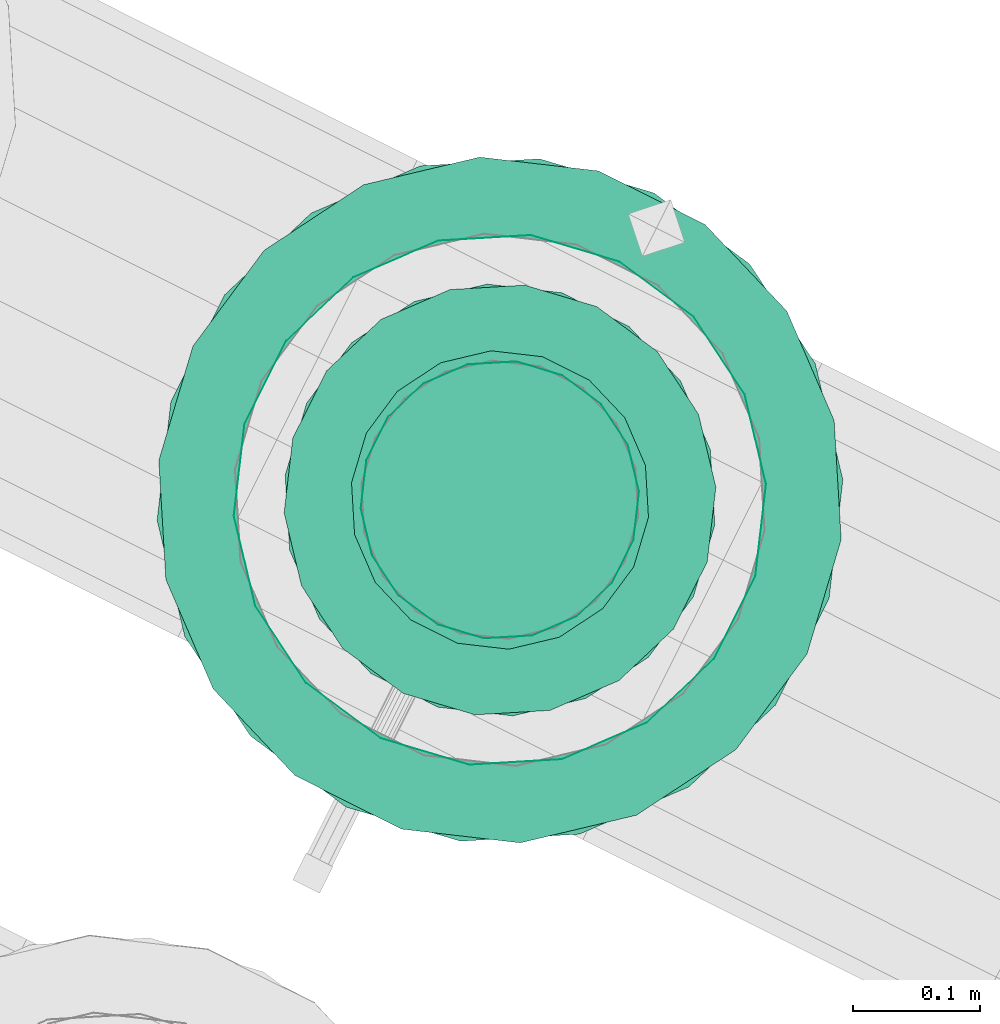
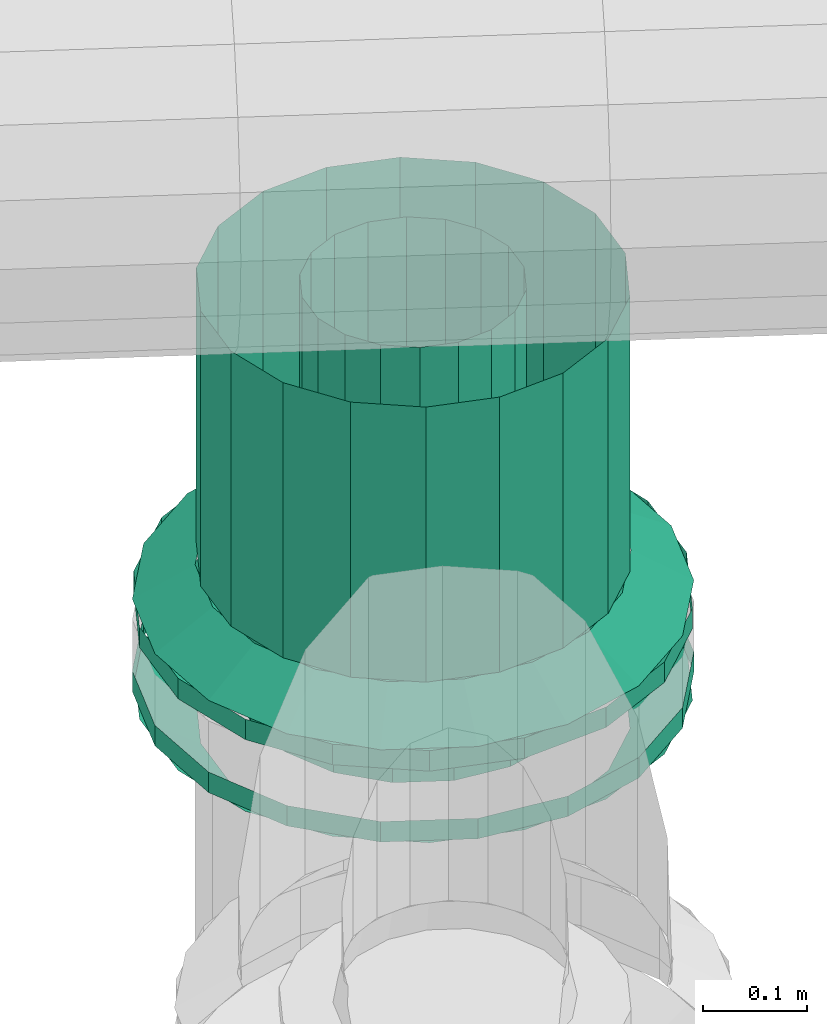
# One storey, part 126 of 152: 2 flow fittings, 1 flow segment.
"""IFC2X3 building model written with IfcOpenShell, lengths in metres."""

import ifcopenshell
import ifcopenshell.guid

model = None  # the IFC model being written
_history = None  # IfcOwnerHistory: only IFC2X3 demands one
_inside = {}  # id of a spatial element -> (the spatial element, [elements in it])
_under = {}  # id of a project, library or spatial element -> (it, [spatial elements below it])
_declared = {}  # id of a project -> (the project, [libraries it declares])
_typed = {}  # id of a type object -> (the type object, [elements of that type])
_made_of = {}  # id of a material, layer set ... -> (it, [elements and type objects made of it])


def new_model(schema):
    """Start an empty IFC model of exactly this schema.

    Asked for "IFC4X3", IfcOpenShell would pick the latest addendum, in which some entities
    have other attributes; the version numbers below select the first issue.
    IFC2X3 requires an IfcOwnerHistory on every rooted entity: one is made here for all.
    """
    global model, _history
    if schema == "IFC4X3":
        model = ifcopenshell.file(schema_version=(4, 3, 0, 0))
    else:
        model = ifcopenshell.file(schema=schema)
    _inside.clear()
    _under.clear()
    _declared.clear()
    _typed.clear()
    _made_of.clear()
    _history = None
    if model.schema == "IFC2X3":
        org = make("IfcOrganization", Name="unknown")
        user = make(
            "IfcPersonAndOrganization",
            ThePerson=make("IfcPerson", FamilyName="unknown"),
            TheOrganization=org,
        )
        app = make(
            "IfcApplication",
            ApplicationDeveloper=org,
            Version="unknown",
            ApplicationFullName="unknown",
            ApplicationIdentifier="unknown",
        )
        _history = make(
            "IfcOwnerHistory",
            OwningUser=user,
            OwningApplication=app,
            ChangeAction="ADDED",
            CreationDate=0,
        )
    return model


def make(cls, **values):
    """One entity of the class cls with the attributes given. An attribute that is None is left unset."""
    return model.create_entity(
        cls, **{name: value for name, value in values.items() if value is not None}
    )


def rooted(cls, **values):
    """An entity with a GlobalId (a new one), such as an element, a storey or a relation."""
    return make(cls, GlobalId=ifcopenshell.guid.new(), OwnerHistory=_history, **values)


def si_unit(unit_type, name, prefix=None):
    """IfcSIUnit, for example si_unit("LENGTHUNIT", "METRE", prefix="MILLI")."""
    return make("IfcSIUnit", UnitType=unit_type, Prefix=prefix, Name=name)


def derived_unit(unit_type, elements):
    """IfcDerivedUnit: a product of units, each with its exponent."""
    return make(
        "IfcDerivedUnit",
        Elements=[
            make("IfcDerivedUnitElement", Unit=unit, Exponent=power)
            for unit, power in elements
        ],
        UnitType=unit_type,
    )


def assignment(units):
    """IfcUnitAssignment: the units of a project."""
    return None if units is None else make("IfcUnitAssignment", Units=units)


def point(xyz):
    """IfcCartesianPoint."""
    return None if xyz is None else make("IfcCartesianPoint", Coordinates=xyz)


def direction(xyz):
    """IfcDirection."""
    return None if xyz is None else make("IfcDirection", DirectionRatios=xyz)


def frame(location, z_axis=None, x_axis=None):
    """IfcAxis2Placement3D, a coordinate frame: its origin and axes. An axis left out is left unset."""
    return make(
        "IfcAxis2Placement3D",
        Location=point(location),
        Axis=direction(z_axis),
        RefDirection=direction(x_axis),
    )


def origin():
    """The frame at (0, 0, 0) with its axes left unset."""
    return frame((0.0, 0.0, 0.0))


def place(relative_to, where):
    """IfcLocalPlacement: puts the frame where relative to a parent placement (None: the world)."""
    return make(
        "IfcLocalPlacement", PlacementRelTo=relative_to, RelativePlacement=where
    )


def context(
    kind, dimensions, precision=None, world=None, true_north=None, identifier=None
):
    """IfcGeometricRepresentationContext, for example the 3D "Model" context."""
    return make(
        "IfcGeometricRepresentationContext",
        ContextIdentifier=identifier,
        ContextType=kind,
        CoordinateSpaceDimension=dimensions,
        Precision=precision,
        WorldCoordinateSystem=world,
        TrueNorth=true_north,
    )


def subcontext(parent, identifier, kind, view, scale=None):
    """IfcGeometricRepresentationSubContext, for example "Body" below "Model"."""
    return make(
        "IfcGeometricRepresentationSubContext",
        ContextIdentifier=identifier,
        ContextType=kind,
        ParentContext=parent,
        TargetScale=scale,
        TargetView=view,
    )


def project(units=None, contexts=None):
    """IfcProject with its units and contexts."""
    return rooted(
        "IfcProject",
        Name="project",
        RepresentationContexts=contexts,
        UnitsInContext=assignment(units),
    )


def spatial(cls, under=None, at=None, **own):
    """A site, building, storey or space (cls), placed at a placement, below another one or the project."""
    s = rooted(cls, ObjectPlacement=at, **own)
    if under is not None:
        _under.setdefault(under.id(), (under, []))[1].append(s)
    return s


def faces_of(points, faces, orient=None, outer=None):
    """IfcFace entities. A face is a list of loops; a loop is a list of indices into points, from 0.

    orient and outer hold one flag for each loop. By default every Orientation is true, the
    first loop of a face is its IfcFaceOuterBound and the others are IfcFaceBound.
    """
    made = []
    for i, loops in enumerate(faces):
        bounds = []
        for j, loop in enumerate(loops):
            is_outer = j == 0 if outer is None else outer[i][j]
            bounds.append(
                make(
                    "IfcFaceOuterBound" if is_outer else "IfcFaceBound",
                    Bound=make("IfcPolyLoop", Polygon=[points[k] for k in loop]),
                    Orientation=True if orient is None else orient[i][j],
                )
            )
        made.append(make("IfcFace", Bounds=bounds))
    return made


def face_set(faces, orient=None, outer=None):
    """The faces of one IfcConnectedFaceSet. surface_model builds it on its shared points."""
    return ("IfcConnectedFaceSet", faces, orient, outer)


def surface_model(cls, points, shells):
    """IfcFaceBasedSurfaceModel or IfcShellBasedSurfaceModel (cls): surfaces that need not close."""
    shared = [point(p) for p in points]
    made = [make(c, CfsFaces=faces_of(shared, fs, o, b)) for c, fs, o, b in shells]
    if cls == "IfcFaceBasedSurfaceModel":
        return make(cls, FbsmFaces=made)
    return make(cls, SbsmBoundary=made)


def shape(context_of_items, identifier, shape_type, items):
    """IfcShapeRepresentation: the items that make up one representation, for example the "Body"."""
    return make(
        "IfcShapeRepresentation",
        ContextOfItems=context_of_items,
        RepresentationIdentifier=identifier,
        RepresentationType=shape_type,
        Items=items,
    )


def source(mapping_origin, context_of_items, identifier, shape_type, items):
    """IfcRepresentationMap: a shape defined once, which mapped items show again and again."""
    return make(
        "IfcRepresentationMap",
        MappingOrigin=mapping_origin,
        MappedRepresentation=shape(context_of_items, identifier, shape_type, items),
    )


def transform(
    local_origin,
    x_axis=None,
    y_axis=None,
    z_axis=None,
    scale=None,
    scale2=None,
    scale3=None,
    uniform=True,
):
    """IfcCartesianTransformationOperator3D, or its non-uniform kind. x_axis, y_axis, z_axis: its Axis1, 2, 3."""
    if uniform:
        return make(
            "IfcCartesianTransformationOperator3D",
            Axis1=direction(x_axis),
            Axis2=direction(y_axis),
            LocalOrigin=point(local_origin),
            Scale=scale,
            Axis3=direction(z_axis),
        )
    return make(
        "IfcCartesianTransformationOperator3DnonUniform",
        Axis1=direction(x_axis),
        Axis2=direction(y_axis),
        LocalOrigin=point(local_origin),
        Scale=scale,
        Axis3=direction(z_axis),
        Scale2=scale2,
        Scale3=scale3,
    )


def mapped(mapping_source, mapping_target):
    """IfcMappedItem: shows the shape of a source again, moved by a transform."""
    return make(
        "IfcMappedItem", MappingSource=mapping_source, MappingTarget=mapping_target
    )


def material(Name=None, Category=None):
    """IfcMaterial."""
    return make("IfcMaterial", Name=Name, Category=Category)


def made_of(thing, what):
    """Note that an element or type object is made of a material, layer set ...; save() writes the relation."""
    if what is not None:
        _made_of.setdefault(what.id(), (what, []))[1].append(thing)
    return thing


def type_object(cls, material=None, **own):
    """A type object (cls), such as IfcWallType, which elements share."""
    return made_of(rooted(cls, **own), material)


def type_shapes(of_type, sources):
    """Give a type object the sources (RepresentationMaps) that its elements show as mapped items."""
    of_type.RepresentationMaps = sources


def element(
    cls,
    number,
    at=None,
    inside=None,
    cuts=None,
    type_object=None,
    material=None,
    context=None,
    identifier="Body",
    shape_type=None,
    held_by="IfcProductDefinitionShape",
    body=None,
    shapes=None,
    **own,
):
    """One element of the class cls, such as IfcWall. Its Tag is "e" and its number.

    at: its placement. inside: the storey or other place that contains it. cuts: it is an
    opening in that element (IfcRelVoidsElement). A single representation is given by context,
    identifier, shape_type and body (its items); several are given by shapes. held_by: the class
    of the entity that holds the representations. save() writes the other relations.
    """
    e = rooted(cls, Tag="e%d" % number, ObjectPlacement=at, **own)
    if body is not None:
        shapes = [shape(context, identifier, shape_type, body)]
    if shapes is not None:
        e.Representation = make(held_by, Representations=shapes)
    if inside is not None:
        _inside.setdefault(inside.id(), (inside, []))[1].append(e)
    if cuts is not None:
        rooted(
            "IfcRelVoidsElement", RelatingBuildingElement=cuts, RelatedOpeningElement=e
        )
    if type_object is not None:
        _typed.setdefault(type_object.id(), (type_object, []))[1].append(e)
    return made_of(e, material)


def aggregate(whole, parts):
    """IfcRelAggregates: a whole, such as a stair, and the parts it consists of."""
    return rooted("IfcRelAggregates", RelatingObject=whole, RelatedObjects=parts)


def save(model, path):
    """Write the relations noted so far, then the file.

    IfcRelAggregates (storeys below a building ...), IfcRelContainedInSpatialStructure (elements
    in a storey), IfcRelDefinesByType, IfcRelAssociatesMaterial and IfcRelDeclares: one each for
    every whole, place, type object, material and project.
    """
    for whole, parts in _under.values():
        aggregate(whole, parts)
    for where, things in _inside.values():
        rooted(
            "IfcRelContainedInSpatialStructure",
            RelatedElements=things,
            RelatingStructure=where,
        )
    for kind, things in _typed.values():
        rooted("IfcRelDefinesByType", RelatedObjects=things, RelatingType=kind)
    for what, things in _made_of.values():
        rooted("IfcRelAssociatesMaterial", RelatedObjects=things, RelatingMaterial=what)
    for by, libraries in _declared.values():
        rooted("IfcRelDeclares", RelatingContext=by, RelatedDefinitions=libraries)
    model.write(path)


model = new_model("IFC2X3")

# Units and contexts
model_context = context("Model", 3, precision=5.2338327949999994e-05, world=origin(), true_north=direction((0.0, 1.0)))
body_context = subcontext(model_context, "Body", "Model", "MODEL_VIEW")
ifc_project = project(units=[si_unit("LENGTHUNIT", "METRE"), si_unit("AREAUNIT", "SQUARE_METRE"), si_unit("VOLUMEUNIT", "CUBIC_METRE"), si_unit("MASSUNIT", "GRAM", prefix="KILO"), si_unit("PLANEANGLEUNIT", "RADIAN"), derived_unit("THERMALTRANSMITTANCEUNIT", [(si_unit("MASSUNIT", "GRAM", prefix="KILO"), 1), (si_unit("THERMODYNAMICTEMPERATUREUNIT", "KELVIN"), -1), (si_unit("TIMEUNIT", "SECOND"), -3)])], contexts=[model_context])

# Site, building, storey
site_placement = place(None, frame((0.0, 0.0, 0.0), z_axis=(0.0, 0.0, 1.0), x_axis=(0.8939966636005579, -0.4480736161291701, 0.0)))
site = spatial("IfcSite", under=ifc_project, at=site_placement, Name="Default", CompositionType="ELEMENT")
building_placement = place(site_placement, origin())
building = spatial("IfcBuilding", under=site, at=building_placement, CompositionType="ELEMENT")
storey_placement = place(building_placement, frame((0.0, 0.0, 2.7499999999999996)))
storey = spatial("IfcBuildingStorey", under=building, at=storey_placement, Name="1. Obergeschoss", CompositionType="ELEMENT", Elevation=2.7499999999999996)

# Flow segment
ifc_material = material(Name="IfcSurfaceStyle #1741")
distribution_element_type_1 = type_object("IfcDistributionElementType", Name="Stahlrohr nach DIN 2448 247294:Stahlrohr nach DIN 2448 247294", material=ifc_material)
shared_shape_1 = source(origin(), body_context, "Body", "SurfaceModel", [
    surface_model("IfcFaceBasedSurfaceModel", [(6.5878144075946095, 7.902658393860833, 5.375028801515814), (6.550346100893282, 7.909265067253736, 5.375028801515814), (6.550346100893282, 7.909265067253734, 5.052622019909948), (6.5878144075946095, 7.902658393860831, 5.052622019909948), (6.517397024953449, 7.928288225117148, 5.375028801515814), (6.517397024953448, 7.928288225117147, 5.052622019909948), (6.492941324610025, 7.957433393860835, 5.375028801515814), (6.492941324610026, 7.957433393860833, 5.052622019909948), (6.479928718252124, 7.9931852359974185, 5.375028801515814), (6.479928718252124, 7.9931852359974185, 5.052622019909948), (6.479928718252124, 8.031231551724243, 5.375028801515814), (6.479928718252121, 8.031231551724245, 5.052622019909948), (6.492941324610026, 8.066983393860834, 5.375028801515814), (6.492941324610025, 8.066983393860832, 5.052622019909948), (6.517397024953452, 8.096128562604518, 5.375028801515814), (6.517397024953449, 8.096128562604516, 5.052622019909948), (6.550346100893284, 8.115151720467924, 5.375028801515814), (6.550346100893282, 8.115151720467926, 5.052622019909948), (6.587814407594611, 8.121758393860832, 5.375028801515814), (6.5878144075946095, 8.121758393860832, 5.052622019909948), (6.625282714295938, 8.115151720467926, 5.375028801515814), (6.625282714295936, 8.115151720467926, 5.052622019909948), (6.658231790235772, 8.096128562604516, 5.375028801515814), (6.658231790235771, 8.096128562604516, 5.052622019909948), (6.6826874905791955, 8.06698339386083, 5.375028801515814), (6.682687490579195, 8.06698339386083, 5.052622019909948), (6.695700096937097, 8.031231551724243, 5.375028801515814), (6.695700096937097, 8.031231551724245, 5.052622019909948), (6.695700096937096, 7.9931852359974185, 5.375028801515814), (6.695700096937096, 7.9931852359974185, 5.052622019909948), (6.682687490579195, 7.957433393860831, 5.375028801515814), (6.682687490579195, 7.957433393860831, 5.052622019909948), (6.658231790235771, 7.928288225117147, 5.375028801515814), (6.658231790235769, 7.928288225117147, 5.052622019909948), (6.6252827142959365, 7.909265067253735, 5.375028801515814), (6.625282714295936, 7.909265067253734, 5.052622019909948), (6.5878144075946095, 7.802658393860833, 5.375028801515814), (6.51614408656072, 7.815295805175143, 5.375028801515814), (6.516144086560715, 7.815295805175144, 5.052622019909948), (6.5878144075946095, 7.802658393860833, 5.052622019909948), (6.453118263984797, 7.85168378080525, 5.375028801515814), (6.453118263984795, 7.85168378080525, 5.052622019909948), (6.40633878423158, 7.907433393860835, 5.375028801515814), (6.40633878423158, 7.90743339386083, 5.052622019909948), (6.381447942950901, 7.975820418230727, 5.375028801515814), (6.381447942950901, 7.975820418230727, 5.052622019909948), (6.381447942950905, 8.048596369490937, 5.375028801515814), (6.381447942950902, 8.048596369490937, 5.052622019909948), (6.406338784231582, 8.116983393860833, 5.375028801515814), (6.40633878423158, 8.11698339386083, 5.052622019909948), (6.4531182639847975, 8.172733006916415, 5.375028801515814), (6.453118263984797, 8.172733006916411, 5.052622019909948), (6.516144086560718, 8.20912098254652, 5.375028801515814), (6.516144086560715, 8.20912098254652, 5.052622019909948), (6.587814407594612, 8.221758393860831, 5.375028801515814), (6.587814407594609, 8.22175839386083, 5.052622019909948), (6.659484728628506, 8.209120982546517, 5.375028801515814), (6.659484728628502, 8.20912098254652, 5.052622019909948), (6.722510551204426, 8.172733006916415, 5.375028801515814), (6.722510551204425, 8.172733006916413, 5.052622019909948), (6.769290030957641, 8.11698339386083, 5.375028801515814), (6.769290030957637, 8.11698339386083, 5.052622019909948), (6.79418087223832, 8.048596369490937, 5.375028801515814), (6.794180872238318, 8.048596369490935, 5.052622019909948), (6.794180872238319, 7.975820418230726, 5.375028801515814), (6.794180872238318, 7.975820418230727, 5.052622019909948), (6.769290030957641, 7.907433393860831, 5.375028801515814), (6.769290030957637, 7.90743339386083, 5.052622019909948), (6.722510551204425, 7.851683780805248, 5.375028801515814), (6.722510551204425, 7.851683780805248, 5.052622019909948), (6.659484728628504, 7.815295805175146, 5.375028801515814), (6.659484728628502, 7.815295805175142, 5.052622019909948)], [face_set([[[0, 1, 2, 3]], [[1, 4, 5, 2]], [[4, 6, 7, 5]], [[6, 8, 9, 7]], [[8, 10, 11, 9]], [[10, 12, 13, 11]], [[12, 14, 15, 13]], [[14, 16, 17, 15]], [[16, 18, 19, 17]], [[18, 20, 21, 19]], [[20, 22, 23, 21]], [[22, 24, 25, 23]], [[24, 26, 27, 25]], [[26, 28, 29, 27]], [[28, 30, 31, 29]], [[30, 32, 33, 31]], [[32, 34, 35, 33]], [[34, 0, 3, 35]], [[36, 37, 38, 39]], [[37, 40, 41, 38]], [[40, 42, 43, 41]], [[42, 44, 45, 43]], [[44, 46, 47, 45]], [[46, 48, 49, 47]], [[48, 50, 51, 49]], [[50, 52, 53, 51]], [[52, 54, 55, 53]], [[54, 56, 57, 55]], [[56, 58, 59, 57]], [[58, 60, 61, 59]], [[60, 62, 63, 61]], [[62, 64, 65, 63]], [[64, 66, 67, 65]], [[66, 68, 69, 67]], [[68, 70, 71, 69]], [[70, 36, 39, 71]]])]),
])
type_shapes(distribution_element_type_1, [shared_shape_1])
flow_segment_placement = place(storey_placement, frame((0.0, 0.0, -2.7499999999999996)))
element("IfcFlowSegment", 1, at=flow_segment_placement, inside=storey, type_object=distribution_element_type_1, material=ifc_material, Name="Stahlrohr nach DIN 2448", ObjectType="Stahlrohr nach DIN 2448", context=body_context, shape_type="MappedRepresentation", body=[
    mapped(shared_shape_1, transform((0.0, 0.0, 0.0), scale=1.0)),
])

# Flow fittings
distribution_element_type_2 = type_object("IfcDistributionElementType", Name="Flansch 247317:Flansch 247317", material=ifc_material)
shared_shape_2 = source(origin(), body_context, "Body", "SurfaceModel", [
    surface_model("IfcFaceBasedSurfaceModel", [(6.47826440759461, 8.012208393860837, 5.052622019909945), (6.484871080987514, 8.049676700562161, 5.052622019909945), (6.477400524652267, 8.0523957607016, 5.0146220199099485), (6.470314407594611, 8.012208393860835, 5.0146220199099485), (6.5038942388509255, 8.082625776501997, 5.052622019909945), (6.497804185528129, 8.087735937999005, 5.0146220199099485), (6.533039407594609, 8.107081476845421, 5.052622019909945), (6.529064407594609, 8.113966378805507, 5.014622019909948), (6.568791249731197, 8.120094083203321, 5.052622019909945), (6.567410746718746, 8.127923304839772, 5.014622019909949), (6.6068375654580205, 8.12009408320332, 5.052622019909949), (6.608218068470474, 8.12792330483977, 5.0146220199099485), (6.64258940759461, 8.10708147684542, 5.052622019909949), (6.646564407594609, 8.113966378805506, 5.014622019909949), (6.671734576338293, 8.082625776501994, 5.052622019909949), (6.677824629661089, 8.087735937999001, 5.014622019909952), (6.6907577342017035, 8.049676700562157, 5.0526220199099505), (6.698228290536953, 8.052395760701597, 5.014622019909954), (6.697364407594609, 8.012208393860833, 5.05262201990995), (6.70531440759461, 8.012208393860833, 5.014622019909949), (6.690757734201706, 7.974740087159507, 5.0526220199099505), (6.698228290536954, 7.9720210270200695, 5.014622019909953), (6.671734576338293, 7.941791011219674, 5.05262201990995), (6.677824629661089, 7.9366808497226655, 5.014622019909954), (6.642589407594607, 7.917335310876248, 5.052622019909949), (6.646564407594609, 7.910450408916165, 5.0146220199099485), (6.60683756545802, 7.904322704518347, 5.052622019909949), (6.608218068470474, 7.896493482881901, 5.014622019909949), (6.568791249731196, 7.904322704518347, 5.052622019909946), (6.567410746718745, 7.896493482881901, 5.014622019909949), (6.533039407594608, 7.91733531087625, 5.052622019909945), (6.529064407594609, 7.910450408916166, 5.0146220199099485), (6.5038942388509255, 7.941791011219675, 5.052622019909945), (6.497804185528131, 7.936680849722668, 5.014622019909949), (6.484871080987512, 7.974740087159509, 5.052622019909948), (6.477400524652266, 7.9720210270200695, 5.0146220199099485), (6.587814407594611, 8.182208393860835, 5.0146220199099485), (6.645957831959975, 8.171956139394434, 5.01462201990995), (6.645957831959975, 8.171956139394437, 4.990622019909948), (6.587814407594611, 8.182208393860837, 4.990622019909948), (6.6970883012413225, 8.14243594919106, 5.01462201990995), (6.6970883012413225, 8.14243594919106, 4.990622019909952), (6.735038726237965, 8.097208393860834, 5.014622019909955), (6.735038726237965, 8.097208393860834, 4.990622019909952), (6.755231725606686, 8.041728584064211, 5.014622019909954), (6.755231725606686, 8.041728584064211, 4.990622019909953), (6.755231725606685, 7.982688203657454, 5.014622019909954), (6.755231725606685, 7.982688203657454, 4.990622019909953), (6.735038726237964, 7.927208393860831, 5.014622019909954), (6.735038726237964, 7.927208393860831, 4.990622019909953), (6.697088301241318, 7.881980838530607, 5.014622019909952), (6.69708830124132, 7.881980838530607, 4.990622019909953), (6.64595783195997, 7.852460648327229, 5.01462201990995), (6.645957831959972, 7.852460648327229, 4.990622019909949), (6.5878144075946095, 7.842208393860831, 5.0146220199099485), (6.5878144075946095, 7.842208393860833, 4.990622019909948), (6.529670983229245, 7.852460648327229, 5.0146220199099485), (6.529670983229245, 7.852460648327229, 4.990622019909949), (6.478540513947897, 7.881980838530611, 5.0146220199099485), (6.478540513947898, 7.881980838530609, 4.9906220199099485), (6.4405900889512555, 7.927208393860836, 5.0146220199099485), (6.4405900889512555, 7.927208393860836, 4.990622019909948), (6.4203970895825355, 7.9826882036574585, 5.014622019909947), (6.420397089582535, 7.982688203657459, 4.990622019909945), (6.420397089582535, 8.041728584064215, 5.014622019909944), (6.420397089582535, 8.041728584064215, 4.990622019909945), (6.4405900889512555, 8.097208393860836, 5.0146220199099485), (6.4405900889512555, 8.097208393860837, 4.990622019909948), (6.478540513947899, 8.142435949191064, 5.0146220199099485), (6.478540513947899, 8.142435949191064, 4.990622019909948), (6.529670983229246, 8.171956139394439, 5.0146220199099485), (6.529670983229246, 8.171956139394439, 4.990622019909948), (6.5878144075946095, 8.012208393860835, 5.014622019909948), (6.3782644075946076, 8.012208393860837, 5.052622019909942), (6.390901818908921, 8.08387871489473, 5.052622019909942), (6.334097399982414, 8.104553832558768, 5.014622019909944), (6.317814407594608, 8.012208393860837, 5.014622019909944), (6.427289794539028, 8.146904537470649, 5.052622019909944), (6.380982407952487, 8.185761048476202, 5.014622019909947), (6.4830394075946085, 8.193684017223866, 5.052622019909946), (6.452814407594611, 8.246035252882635, 5.014622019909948), (6.551426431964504, 8.218574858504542, 5.052622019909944), (6.540929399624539, 8.27810648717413, 5.014622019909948), (6.6242023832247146, 8.21857485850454, 5.05262201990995), (6.634699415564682, 8.278106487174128, 5.01462201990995), (6.6925894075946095, 8.193684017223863, 5.052622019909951), (6.722814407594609, 8.246035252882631, 5.01462201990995), (6.74833902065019, 8.146904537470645, 5.052622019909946), (6.7946464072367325, 8.185761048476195, 5.014622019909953), (6.784726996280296, 8.083878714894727, 5.0526220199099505), (6.841531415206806, 8.10455383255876, 5.014622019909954), (6.797364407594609, 8.012208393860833, 5.0526220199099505), (6.85781440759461, 8.012208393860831, 5.014622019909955), (6.784726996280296, 7.9405380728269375, 5.0526220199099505), (6.841531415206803, 7.9198629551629, 5.014622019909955), (6.748339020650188, 7.877512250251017, 5.052622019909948), (6.794646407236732, 7.838655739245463, 5.014622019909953), (6.692589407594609, 7.830732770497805, 5.052622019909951), (6.722814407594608, 7.778381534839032, 5.014622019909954), (6.624202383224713, 7.805841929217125, 5.0526220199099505), (6.634699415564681, 7.746310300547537, 5.014622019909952), (6.551426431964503, 7.805841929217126, 5.052622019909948), (6.540929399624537, 7.746310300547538, 5.014622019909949), (6.483039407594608, 7.830732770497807, 5.052622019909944), (6.452814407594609, 7.778381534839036, 5.014622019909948), (6.427289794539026, 7.877512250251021, 5.052622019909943), (6.3809824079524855, 7.8386557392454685, 5.014622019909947), (6.3909018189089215, 7.940538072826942, 5.052622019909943), (6.334097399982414, 7.9198629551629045, 5.014622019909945), (6.5878144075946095, 8.282208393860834, 5.0146220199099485), (6.680159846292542, 8.265925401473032, 5.01462201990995), (6.680159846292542, 8.265925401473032, 4.990622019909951), (6.5878144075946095, 8.282208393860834, 4.990622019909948), (6.761367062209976, 8.219040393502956, 5.014622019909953), (6.761367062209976, 8.219040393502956, 4.990622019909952), (6.821641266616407, 8.14720839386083, 5.014622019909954), (6.821641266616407, 8.147208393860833, 4.990622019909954), (6.853712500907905, 8.059093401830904, 5.014622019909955), (6.853712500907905, 8.059093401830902, 4.990622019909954), (6.853712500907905, 7.96532338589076, 5.014622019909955), (6.853712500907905, 7.96532338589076, 4.990622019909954), (6.821641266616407, 7.8772083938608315, 5.014622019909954), (6.821641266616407, 7.8772083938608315, 4.990622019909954), (6.761367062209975, 7.805376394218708, 5.014622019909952), (6.761367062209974, 7.805376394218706, 4.990622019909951), (6.680159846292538, 7.7584913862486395, 5.014622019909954), (6.680159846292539, 7.758491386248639, 4.990622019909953), (6.587814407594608, 7.742208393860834, 5.014622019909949), (6.587814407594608, 7.742208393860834, 4.9906220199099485), (6.495468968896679, 7.758491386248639, 5.014622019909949), (6.495468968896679, 7.758491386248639, 4.9906220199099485), (6.414261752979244, 7.805376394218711, 5.014622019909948), (6.414261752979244, 7.805376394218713, 4.990622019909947), (6.353987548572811, 7.877208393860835, 5.014622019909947), (6.353987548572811, 7.877208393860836, 4.990622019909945), (6.321916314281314, 7.965323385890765, 5.014622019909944), (6.3219163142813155, 7.965323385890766, 4.990622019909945), (6.3219163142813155, 8.059093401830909, 5.014622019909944), (6.3219163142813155, 8.059093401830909, 4.990622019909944), (6.353987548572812, 8.147208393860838, 5.014622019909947), (6.353987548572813, 8.147208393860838, 4.990622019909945), (6.414261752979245, 8.21904039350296, 5.014622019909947), (6.414261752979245, 8.21904039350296, 4.990622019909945), (6.49546896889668, 8.265925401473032, 5.0146220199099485), (6.49546896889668, 8.265925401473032, 4.990622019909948)], [face_set([[[0, 1, 2, 3]], [[1, 4, 5, 2]], [[4, 6, 7, 5]], [[6, 8, 9, 7]], [[8, 10, 11, 9]], [[10, 12, 13, 11]], [[12, 14, 15, 13]], [[14, 16, 17, 15]], [[16, 18, 19, 17]], [[18, 20, 21, 19]], [[20, 22, 23, 21]], [[22, 24, 25, 23]], [[24, 26, 27, 25]], [[26, 28, 29, 27]], [[28, 30, 31, 29]], [[30, 32, 33, 31]], [[32, 34, 35, 33]], [[34, 0, 3, 35]], [[36, 37, 38, 39]], [[37, 40, 41, 38]], [[40, 42, 43, 41]], [[42, 44, 45, 43]], [[44, 46, 47, 45]], [[46, 48, 49, 47]], [[48, 50, 51, 49]], [[50, 52, 53, 51]], [[52, 54, 55, 53]], [[54, 56, 57, 55]], [[56, 58, 59, 57]], [[58, 60, 61, 59]], [[60, 62, 63, 61]], [[62, 64, 65, 63]], [[64, 66, 67, 65]], [[66, 68, 69, 67]], [[68, 70, 71, 69]], [[70, 36, 39, 71]], [[72, 37, 36]], [[72, 40, 37]], [[72, 42, 40]], [[72, 44, 42]], [[72, 46, 44]], [[72, 48, 46]], [[72, 50, 48]], [[72, 52, 50]], [[72, 54, 52]], [[72, 56, 54]], [[72, 58, 56]], [[72, 60, 58]], [[72, 62, 60]], [[72, 64, 62]], [[72, 66, 64]], [[72, 68, 66]], [[72, 70, 68]], [[72, 36, 70]], [[73, 74, 75, 76]], [[74, 77, 78, 75]], [[77, 79, 80, 78]], [[79, 81, 82, 80]], [[81, 83, 84, 82]], [[83, 85, 86, 84]], [[85, 87, 88, 86]], [[87, 89, 90, 88]], [[89, 91, 92, 90]], [[91, 93, 94, 92]], [[93, 95, 96, 94]], [[95, 97, 98, 96]], [[97, 99, 100, 98]], [[99, 101, 102, 100]], [[101, 103, 104, 102]], [[103, 105, 106, 104]], [[105, 107, 108, 106]], [[107, 73, 76, 108]], [[109, 110, 111, 112]], [[110, 113, 114, 111]], [[113, 115, 116, 114]], [[115, 117, 118, 116]], [[117, 119, 120, 118]], [[119, 121, 122, 120]], [[121, 123, 124, 122]], [[123, 125, 126, 124]], [[125, 127, 128, 126]], [[127, 129, 130, 128]], [[129, 131, 132, 130]], [[131, 133, 134, 132]], [[133, 135, 136, 134]], [[135, 137, 138, 136]], [[137, 139, 140, 138]], [[139, 141, 142, 140]], [[141, 143, 144, 142]], [[143, 109, 112, 144]]])]),
])
type_shapes(distribution_element_type_2, [shared_shape_2])
flow_fitting_1_placement = place(storey_placement, frame((0.0, 0.0, -2.7499999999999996)))
element("IfcFlowFitting", 2, at=flow_fitting_1_placement, inside=storey, type_object=distribution_element_type_2, material=ifc_material, Name="Flansch", ObjectType="Flansch", context=body_context, shape_type="MappedRepresentation", body=[
    mapped(shared_shape_2, transform((0.0, 0.0, 0.0), scale=1.0)),
])
distribution_element_type_3 = type_object("IfcDistributionElementType", Name="Flansch 247478:Flansch 247478", material=ifc_material)
shared_shape_3 = source(origin(), body_context, "Body", "SurfaceModel", [
    surface_model("IfcFaceBasedSurfaceModel", [(6.75781440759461, 8.012208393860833, 4.930622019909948), (6.747562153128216, 7.954064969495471, 4.930622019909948), (6.747562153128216, 7.954064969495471, 4.906622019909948), (6.75781440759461, 8.012208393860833, 4.906622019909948), (6.718041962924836, 7.902934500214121, 4.930622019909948), (6.718041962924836, 7.902934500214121, 4.906622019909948), (6.6728144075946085, 7.864984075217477, 4.930622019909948), (6.6728144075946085, 7.864984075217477, 4.906622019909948), (6.61733459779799, 7.844791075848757, 4.930622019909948), (6.61733459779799, 7.844791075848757, 4.906622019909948), (6.558294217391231, 7.844791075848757, 4.930622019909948), (6.558294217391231, 7.844791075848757, 4.906622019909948), (6.502814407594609, 7.864984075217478, 4.930622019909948), (6.502814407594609, 7.864984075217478, 4.906622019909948), (6.4575868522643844, 7.902934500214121, 4.930622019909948), (6.4575868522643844, 7.902934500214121, 4.906622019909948), (6.4280666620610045, 7.9540649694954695, 4.930622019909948), (6.4280666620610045, 7.9540649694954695, 4.906622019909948), (6.41781440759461, 8.012208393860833, 4.930622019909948), (6.41781440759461, 8.012208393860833, 4.906622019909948), (6.428066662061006, 8.070351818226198, 4.930622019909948), (6.428066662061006, 8.070351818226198, 4.906622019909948), (6.4575868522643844, 8.121482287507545, 4.930622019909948), (6.4575868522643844, 8.121482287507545, 4.906622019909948), (6.502814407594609, 8.15943271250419, 4.930622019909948), (6.502814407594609, 8.15943271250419, 4.906622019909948), (6.558294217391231, 8.179625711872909, 4.930622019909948), (6.558294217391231, 8.179625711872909, 4.906622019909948), (6.61733459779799, 8.179625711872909, 4.930622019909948), (6.61733459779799, 8.179625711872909, 4.906622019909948), (6.6728144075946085, 8.159432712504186, 4.930622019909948), (6.6728144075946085, 8.159432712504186, 4.906622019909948), (6.718041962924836, 8.121482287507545, 4.930622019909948), (6.718041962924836, 8.121482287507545, 4.906622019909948), (6.747562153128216, 8.070351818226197, 4.930622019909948), (6.747562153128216, 8.070351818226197, 4.906622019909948), (6.5878144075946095, 8.012208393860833, 4.906622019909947), (6.587814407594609, 8.129708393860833, 4.906622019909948), (6.628001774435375, 8.122622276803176, 4.906622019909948), (6.625282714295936, 8.115151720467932, 4.868622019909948), (6.5878144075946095, 8.121758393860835, 4.868622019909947), (6.6633419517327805, 8.102218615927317, 4.906622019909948), (6.658231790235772, 8.096128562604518, 4.868622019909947), (6.6895723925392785, 8.070958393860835, 4.906622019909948), (6.682687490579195, 8.06698339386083, 4.868622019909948), (6.703529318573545, 8.032612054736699, 4.906622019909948), (6.695700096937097, 8.031231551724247, 4.868622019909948), (6.703529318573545, 7.99180473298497, 4.906622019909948), (6.695700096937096, 7.993185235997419, 4.868622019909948), (6.68957239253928, 7.953458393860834, 4.906622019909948), (6.682687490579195, 7.957433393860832, 4.868622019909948), (6.663341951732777, 7.922198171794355, 4.906622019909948), (6.658231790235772, 7.928288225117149, 4.868622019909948), (6.6280017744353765, 7.901794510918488, 4.906622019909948), (6.625282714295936, 7.909265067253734, 4.868622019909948), (6.5878144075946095, 7.894708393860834, 4.906622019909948), (6.5878144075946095, 7.9026583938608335, 4.868622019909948), (6.547627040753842, 7.90179451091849, 4.906622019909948), (6.550346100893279, 7.909265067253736, 4.868622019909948), (6.512286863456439, 7.922198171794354, 4.906622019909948), (6.517397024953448, 7.928288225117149, 4.868622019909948), (6.486056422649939, 7.953458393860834, 4.906622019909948), (6.4929413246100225, 7.957433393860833, 4.868622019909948), (6.472099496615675, 7.991804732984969, 4.906622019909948), (6.479928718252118, 7.9931852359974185, 4.868622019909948), (6.472099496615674, 8.032612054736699, 4.906622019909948), (6.479928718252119, 8.031231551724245, 4.868622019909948), (6.4860564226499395, 8.070958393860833, 4.906622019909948), (6.492941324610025, 8.066983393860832, 4.868622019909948), (6.512286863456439, 8.102218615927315, 4.906622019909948), (6.517397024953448, 8.096128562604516, 4.868622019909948), (6.5476270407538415, 8.122622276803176, 4.906622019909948), (6.55034610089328, 8.115151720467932, 4.868622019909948), (6.857814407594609, 8.012208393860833, 4.930622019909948), (6.841531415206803, 7.9198629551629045, 4.930622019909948), (6.841531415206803, 7.9198629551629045, 4.906622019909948), (6.857814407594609, 8.012208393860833, 4.906622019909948), (6.794646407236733, 7.8386557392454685, 4.930622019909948), (6.794646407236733, 7.8386557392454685, 4.906622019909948), (6.722814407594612, 7.778381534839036, 4.930622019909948), (6.722814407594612, 7.778381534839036, 4.906622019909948), (6.634699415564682, 7.746310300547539, 4.930622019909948), (6.634699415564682, 7.746310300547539, 4.906622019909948), (6.540929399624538, 7.746310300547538, 4.930622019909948), (6.540929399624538, 7.746310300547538, 4.906622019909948), (6.452814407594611, 7.778381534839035, 4.930622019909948), (6.452814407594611, 7.778381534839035, 4.906622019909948), (6.380982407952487, 7.838655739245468, 4.930622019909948), (6.380982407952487, 7.838655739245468, 4.906622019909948), (6.334097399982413, 7.919862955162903, 4.930622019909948), (6.334097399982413, 7.919862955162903, 4.906622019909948), (6.31781440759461, 8.012208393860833, 4.930622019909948), (6.31781440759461, 8.012208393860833, 4.906622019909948), (6.334097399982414, 8.104553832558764, 4.930622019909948), (6.334097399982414, 8.104553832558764, 4.906622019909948), (6.380982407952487, 8.1857610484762, 4.930622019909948), (6.380982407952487, 8.1857610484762, 4.906622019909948), (6.452814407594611, 8.246035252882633, 4.930622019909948), (6.452814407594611, 8.246035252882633, 4.906622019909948), (6.540929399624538, 8.278106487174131, 4.930622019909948), (6.540929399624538, 8.278106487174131, 4.906622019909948), (6.634699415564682, 8.27810648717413, 4.930622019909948), (6.634699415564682, 8.27810648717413, 4.906622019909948), (6.72281440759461, 8.246035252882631, 4.930622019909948), (6.72281440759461, 8.246035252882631, 4.906622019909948), (6.794646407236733, 8.185761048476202, 4.930622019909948), (6.794646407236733, 8.185761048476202, 4.906622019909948), (6.841531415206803, 8.104553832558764, 4.930622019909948), (6.841531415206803, 8.104553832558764, 4.906622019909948), (6.587814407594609, 8.282208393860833, 4.906622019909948), (6.680159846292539, 8.26592540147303, 4.906622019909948), (6.6594847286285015, 8.209120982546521, 4.868622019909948), (6.587814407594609, 8.221758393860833, 4.868622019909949), (6.761367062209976, 8.219040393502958, 4.906622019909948), (6.722510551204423, 8.172733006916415, 4.868622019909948), (6.821641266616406, 8.147208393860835, 4.906622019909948), (6.769290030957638, 8.116983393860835, 4.868622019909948), (6.853712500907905, 8.059093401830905, 4.906622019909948), (6.794180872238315, 8.048596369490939, 4.868622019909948), (6.853712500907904, 7.965323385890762, 4.906622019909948), (6.794180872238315, 7.975820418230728, 4.868622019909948), (6.821641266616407, 7.877208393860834, 4.906622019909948), (6.769290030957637, 7.907433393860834, 4.868622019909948), (6.761367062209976, 7.80537639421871, 4.906622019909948), (6.722510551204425, 7.851683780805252, 4.868622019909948), (6.680159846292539, 7.758491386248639, 4.906622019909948), (6.659484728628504, 7.815295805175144, 4.868622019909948), (6.5878144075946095, 7.742208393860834, 4.906622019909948), (6.5878144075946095, 7.802658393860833, 4.868622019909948), (6.495468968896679, 7.758491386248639, 4.906622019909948), (6.5161440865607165, 7.815295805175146, 4.868622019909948), (6.414261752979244, 7.805376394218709, 4.906622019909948), (6.4531182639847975, 7.851683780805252, 4.868622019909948), (6.353987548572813, 7.877208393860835, 4.906622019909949), (6.406338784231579, 7.907433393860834, 4.8686220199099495), (6.321916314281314, 7.965323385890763, 4.906622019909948), (6.381447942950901, 7.975820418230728, 4.868622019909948), (6.321916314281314, 8.059093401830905, 4.906622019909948), (6.381447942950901, 8.048596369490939, 4.868622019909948), (6.353987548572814, 8.147208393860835, 4.906622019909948), (6.406338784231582, 8.116983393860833, 4.868622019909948), (6.414261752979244, 8.219040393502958, 4.906622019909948), (6.453118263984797, 8.172733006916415, 4.868622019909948), (6.495468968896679, 8.26592540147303, 4.906622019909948), (6.516144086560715, 8.20912098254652, 4.868622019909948)], [face_set([[[0, 1, 2, 3]], [[1, 4, 5, 2]], [[4, 6, 7, 5]], [[6, 8, 9, 7]], [[8, 10, 11, 9]], [[10, 12, 13, 11]], [[12, 14, 15, 13]], [[14, 16, 17, 15]], [[16, 18, 19, 17]], [[18, 20, 21, 19]], [[20, 22, 23, 21]], [[22, 24, 25, 23]], [[24, 26, 27, 25]], [[26, 28, 29, 27]], [[28, 30, 31, 29]], [[30, 32, 33, 31]], [[32, 34, 35, 33]], [[34, 0, 3, 35]], [[36, 35, 3]], [[36, 33, 35]], [[36, 31, 33]], [[36, 29, 31]], [[36, 27, 29]], [[36, 25, 27]], [[36, 23, 25]], [[36, 21, 23]], [[36, 19, 21]], [[36, 17, 19]], [[36, 15, 17]], [[36, 13, 15]], [[36, 11, 13]], [[36, 9, 11]], [[36, 7, 9]], [[36, 5, 7]], [[36, 2, 5]], [[36, 3, 2]], [[37, 38, 39, 40]], [[38, 41, 42, 39]], [[41, 43, 44, 42]], [[43, 45, 46, 44]], [[45, 47, 48, 46]], [[47, 49, 50, 48]], [[49, 51, 52, 50]], [[51, 53, 54, 52]], [[53, 55, 56, 54]], [[55, 57, 58, 56]], [[57, 59, 60, 58]], [[59, 61, 62, 60]], [[61, 63, 64, 62]], [[63, 65, 66, 64]], [[65, 67, 68, 66]], [[67, 69, 70, 68]], [[69, 71, 72, 70]], [[71, 37, 40, 72]], [[73, 74, 75, 76]], [[74, 77, 78, 75]], [[77, 79, 80, 78]], [[79, 81, 82, 80]], [[81, 83, 84, 82]], [[83, 85, 86, 84]], [[85, 87, 88, 86]], [[87, 89, 90, 88]], [[89, 91, 92, 90]], [[91, 93, 94, 92]], [[93, 95, 96, 94]], [[95, 97, 98, 96]], [[97, 99, 100, 98]], [[99, 101, 102, 100]], [[101, 103, 104, 102]], [[103, 105, 106, 104]], [[105, 107, 108, 106]], [[107, 73, 76, 108]], [[109, 110, 111, 112]], [[110, 113, 114, 111]], [[113, 115, 116, 114]], [[115, 117, 118, 116]], [[117, 119, 120, 118]], [[119, 121, 122, 120]], [[121, 123, 124, 122]], [[123, 125, 126, 124]], [[125, 127, 128, 126]], [[127, 129, 130, 128]], [[129, 131, 132, 130]], [[131, 133, 134, 132]], [[133, 135, 136, 134]], [[135, 137, 138, 136]], [[137, 139, 140, 138]], [[139, 141, 142, 140]], [[141, 143, 144, 142]], [[143, 109, 112, 144]]])]),
])
type_shapes(distribution_element_type_3, [shared_shape_3])
flow_fitting_2_placement = place(storey_placement, frame((0.0, 0.0, -2.7499999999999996)))
element("IfcFlowFitting", 3, at=flow_fitting_2_placement, inside=storey, type_object=distribution_element_type_3, material=ifc_material, Name="Flansch", ObjectType="Flansch", context=body_context, shape_type="MappedRepresentation", body=[
    mapped(shared_shape_3, transform((0.0, 0.0, 0.0), scale=1.0)),
])

save(model, "model.ifc")
